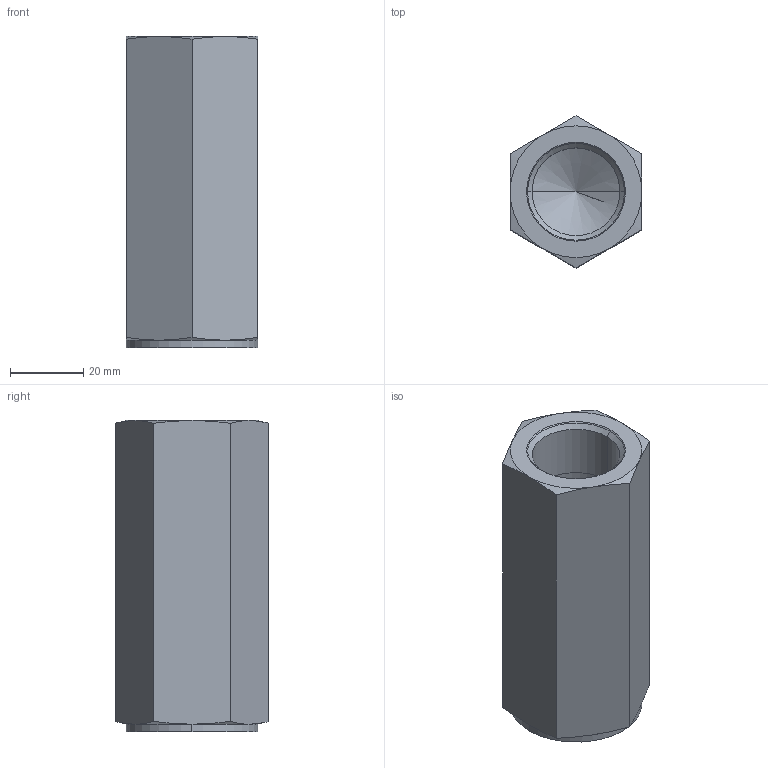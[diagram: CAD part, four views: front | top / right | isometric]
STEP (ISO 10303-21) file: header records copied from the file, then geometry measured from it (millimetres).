
FILE_DESCRIPTION((''),'2;1');
FILE_NAME('VJ3_16_G1','2021-06-02T',('l.soukupova'),(''),'PRO/ENGINEER BY PARAMETRIC TECHNOLOGY CORPORATION, 2015440','PRO/ENGINEER BY PARAMETRIC TECHNOLOGY CORPORATION, 2015440','');
FILE_SCHEMA(('AUTOMOTIVE_DESIGN { 1 0 10303 214 1 1 1 1 }'));
Length unit declared in the file: millimetre
Products named in the file (1): VJ3_16_G1
Bounding box: 36 x 41.57 x 85 mm (x, y, z)
Volume: 74783.6 mm3; surface area: 18599.6 mm2
Topology: 1 solids, 3 shells, 40 faces, 114 edges, 87 vertices
Faces by surface type: cone 20, plane 10, cylinder 10
Entity records: 1970 total; most frequent: CARTESIAN_POINT 525, DIRECTION 212, ORIENTED_EDGE 164, PRESENTATION_STYLE_ASSIGNMENT 122, STYLED_ITEM 122, CURVE_STYLE 119, EDGE_CURVE 86, AXIS2_PLACEMENT_3D 83
